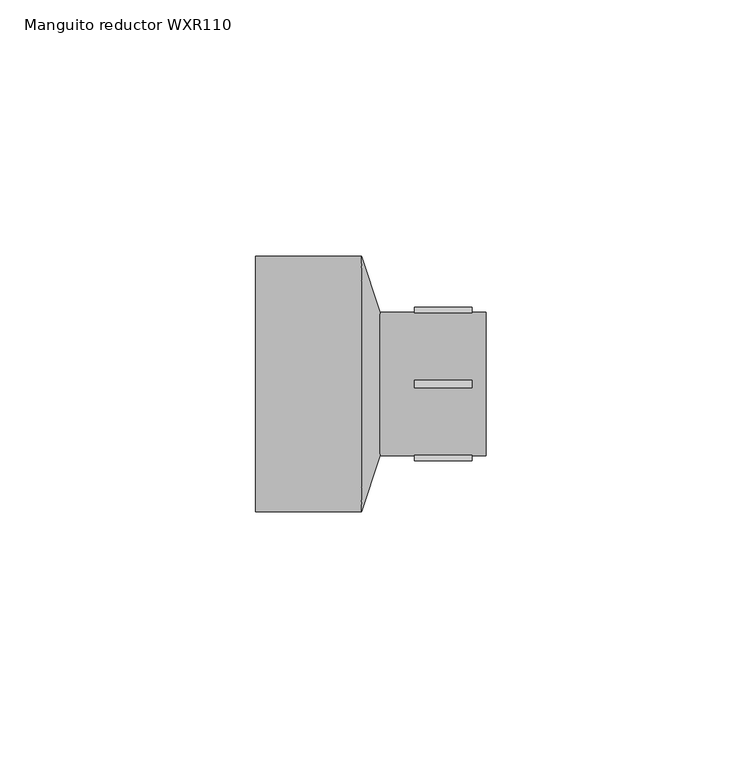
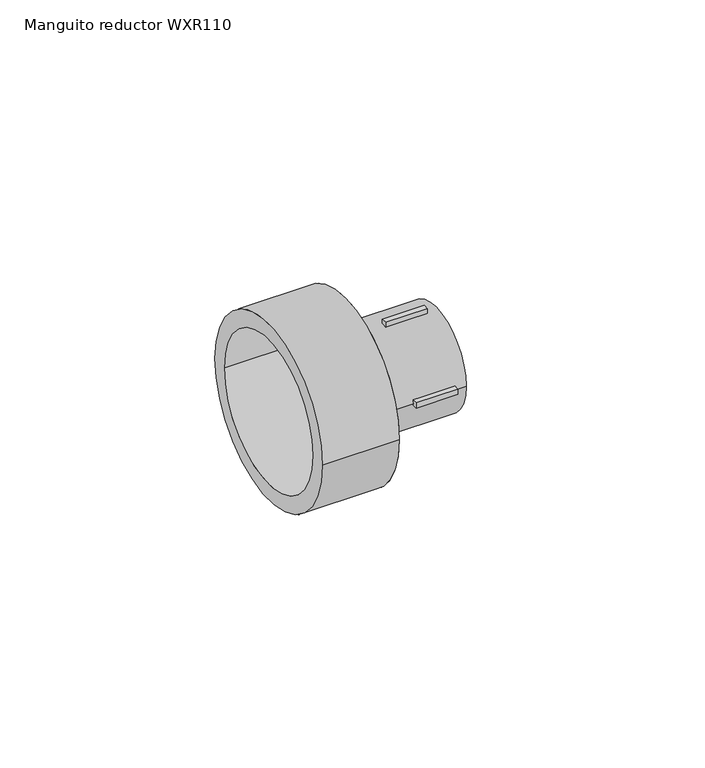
"""IFC4 building model written with IfcOpenShell, lengths in millimetres: pipe fitting geometry, EGB_VASEN_ PPR_Manguito reductor WXR110 : Manguito reductor WXR110."""

from ifc_helpers import new_model, si_unit, point, frame, origin, origin_2d, place, context, project, spatial, polyline, circle_curve, trimmed, segment, composite_curve, outline, extrude, source, transform, mapped, element, save
from ifc_brep_helpers import plane_surface, revolved_surface, advanced_brep


def manguito_reductor_wxr110_f4416983(model_context):
    return source(origin(), model_context, "Body", "SolidModel", [
        extrude(outline(polyline([(8.5, -0.75), (8.5, 0.75), (19.7, 0.75), (19.7, -0.75), (8.5, -0.75)])), frame((0.0, 0.0, 13.0), z_axis=(0.0, 0.0, 1.0), x_axis=(1.0, 0.0, 0.0)), (0.0, 0.0, 1.0), 2.0),
        extrude(outline(polyline([(8.5, -0.75), (8.5, 0.75), (19.7, 0.75), (19.7, -0.75), (8.5, -0.75)])), frame((0.0, 0.0, -15.0), z_axis=(0.0, 0.0, 1.0), x_axis=(1.0, 0.0, 0.0)), (0.0, 0.0, 1.0), 2.0),
        extrude(outline(polyline([(8.5, 13.0), (8.5, 15.0), (19.7, 15.0), (19.7, 13.0), (8.5, 13.0)])), frame((0.0, 0.0, -0.75), z_axis=(0.0, 0.0, 1.0), x_axis=(1.0, 0.0, 0.0)), (0.0, 0.0, 1.0), 1.5),
        extrude(outline(polyline([(8.5, -15.0), (8.5, -13.0), (19.7, -13.0), (19.7, -15.0), (8.5, -15.0)])), frame((0.0, 0.0, -0.75), z_axis=(0.0, 0.0, 1.0), x_axis=(1.0, 0.0, 0.0)), (0.0, 0.0, 1.0), 1.5),
        extrude(outline(composite_curve([segment(trimmed(circle_curve(origin_2d(), 14.0), [point((-14.0, 0.0))], [point((14.0, 0.0))], False, "CARTESIAN"), True, "CONTINUOUS"), segment(trimmed(circle_curve(origin_2d(), 14.0), [point((14.0, 0.0))], [point((-14.0, 0.0))], False, "CARTESIAN"), True, "CONTINUOUS")], self_intersect=False), holes=[composite_curve([segment(trimmed(circle_curve(origin_2d(), 10.0), [point((-10.0, 0.0))], [point((10.0, 0.0))], True, "CARTESIAN"), True, "CONTINUOUS"), segment(trimmed(circle_curve(origin_2d(), 10.0), [point((10.0, 0.0))], [point((-10.0, 0.0))], True, "CARTESIAN"), True, "CONTINUOUS")], self_intersect=False)]), frame((1.8, 0.0, 0.0), z_axis=(1.0, 0.0, 0.0), x_axis=(0.0, 1.0, 0.0)), (0.0, 0.0, 1.0), 20.7),
        extrude(outline(composite_curve([segment(trimmed(circle_curve(origin_2d(), 25.0), [point((-25.0, 0.0))], [point((25.0, 0.0))], False, "CARTESIAN"), True, "CONTINUOUS"), segment(trimmed(circle_curve(origin_2d(), 25.0), [point((25.0, 0.0))], [point((-25.0, 0.0))], False, "CARTESIAN"), True, "CONTINUOUS")], self_intersect=False), holes=[composite_curve([segment(trimmed(circle_curve(origin_2d(), 20.5), [point((-20.5, 0.0))], [point((20.5, 0.0))], True, "CARTESIAN"), True, "CONTINUOUS"), segment(trimmed(circle_curve(origin_2d(), 20.5), [point((20.5, 0.0))], [point((-20.5, 0.0))], True, "CARTESIAN"), True, "CONTINUOUS")], self_intersect=False)]), frame((-22.5, 0.0, 0.0), z_axis=(1.0, 0.0, 0.0), x_axis=(0.0, 1.0, 0.0)), (0.0, 0.0, 1.0), 20.7),
        advanced_brep(
        [(1.8, -14.0, 0.0), (1.8, 14.0, 0.0), (-1.8, -25.0, 0.0), (-1.8, 25.0, 0.0)],
        [
            (0, 1, circle_curve(frame((1.8, 0.0, 0.0), z_axis=(1.0, 0.0, 0.0), x_axis=(0.0, -1.0, 0.0)), 14.0)),
            (1, 0, circle_curve(frame((1.8, 0.0, 0.0), z_axis=(1.0, 0.0, 0.0), x_axis=(0.0, 1.0, 0.0)), 14.0)),
            (2, 3, circle_curve(frame((-1.8, 0.0, 0.0), z_axis=(-1.0, 0.0, 0.0), x_axis=(0.0, 1.0, 0.0)), 25.0)),
            (3, 2, circle_curve(frame((-1.8, 0.0, 0.0), z_axis=(-1.0, 0.0, 0.0), x_axis=(0.0, -1.0, 0.0)), 25.0)),
            (3, 1),
            (0, 2),
        ],
        [
            plane_surface(frame((1.8, 0.0, 0.0), z_axis=(1.0, 0.0, 0.0), x_axis=(0.0, 0.0, -1.0))),
            plane_surface(frame((-1.8, 0.0, 0.0), z_axis=(-1.0, 0.0, 0.0), x_axis=(0.0, 0.0, -1.0))),
            revolved_surface(polyline([(1.7999999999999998, -14.000000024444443, 0.0), (-1.8000000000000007, -25.0, 0.0)]), (6.3818182, 0.0, 0.0), (-1.0, 0.0, 0.0)),
            revolved_surface(polyline([(1.7999999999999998, 14.000000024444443, 0.0), (-1.8000000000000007, 25.0, 0.0)]), (6.3818182, 0.0, 0.0), (-1.0, 0.0, 0.0)),
        ],
        [
            (0, [[1, 2]]),
            (1, [[3, 4]]),
            (2, [[-4, 5, -1, 6]]),
            (3, [[-3, -6, -2, -5]]),
        ],
    ),
    ])


if __name__ == "__main__":
    model = new_model("IFC4")
    model_context = context("Model", 3, world=origin())
    ifc_project = project(units=[si_unit("LENGTHUNIT", "METRE", prefix="MILLI")], contexts=[model_context])
    site = spatial("IfcSite", under=ifc_project)
    building = spatial("IfcBuilding", under=site)
    placement = place(None, origin())
    manguito_reductor_wxr110_shape = manguito_reductor_wxr110_f4416983(model_context)
    element("IfcPipeFitting", 1, ObjectType="EGB_VASEN_ PPR_Manguito reductor WXR110 : Manguito reductor WXR110", at=placement, inside=building, context=model_context, shape_type="MappedRepresentation", body=[
        mapped(manguito_reductor_wxr110_shape, transform((0.0, 0.0, 0.0), x_axis=(1.0, 0.0, 0.0), y_axis=(0.0, 1.0, 0.0), z_axis=(0.0, 0.0, 1.0))),
    ])
    save(model, "model.ifc")
